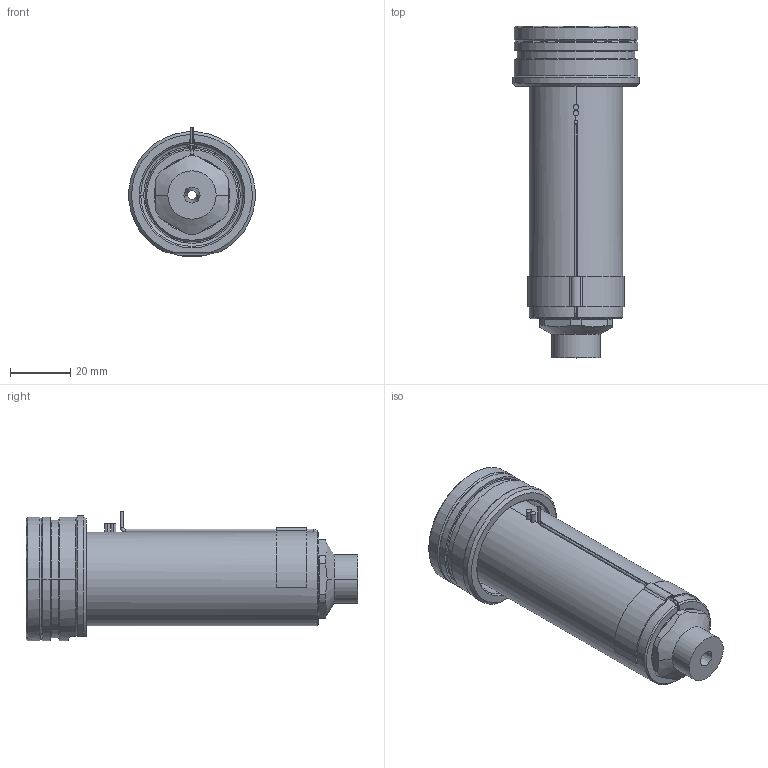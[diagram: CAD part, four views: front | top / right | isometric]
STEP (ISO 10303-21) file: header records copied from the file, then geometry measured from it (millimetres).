
FILE_DESCRIPTION((''),'2;1');
FILE_NAME('EO12_SG_SG_090_SW','2024-02-19T12:27:57',('sundharh'),(''),'CREO PARAMETRIC BY PTC INC, 2023154','CREO PARAMETRIC BY PTC INC, 2023154','');
FILE_SCHEMA(('CONFIG_CONTROL_DESIGN'));
Length unit declared in the file: millimetre
Products named in the file (1): EO12_SG_SG_090_SW
Bounding box: 41.85 x 110 x 43 mm (x, y, z)
Volume: 74747.2 mm3; surface area: 21499.7 mm2
Topology: 2 solids, 3 shells, 177 faces, 448 edges, 273 vertices
Faces by surface type: cylinder 65, plane 46, cone 33, torus 27, sphere 3, bspline 3
Entity records: 6006 total; most frequent: CARTESIAN_POINT 1654, DIRECTION 956, ORIENTED_EDGE 888, EDGE_CURVE 444, AXIS2_PLACEMENT_3D 399, VERTEX_POINT 273, CIRCLE 225, EDGE_LOOP 193
